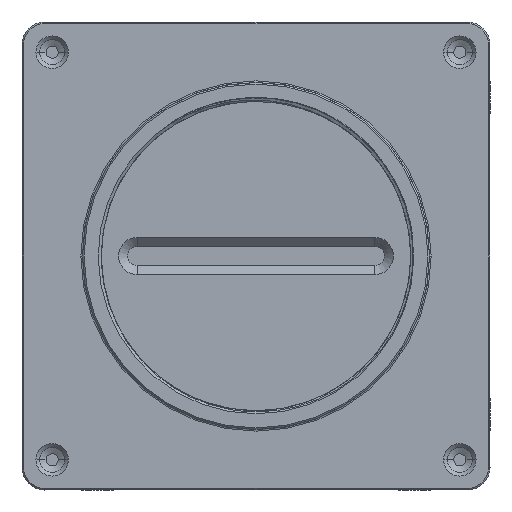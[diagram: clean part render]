
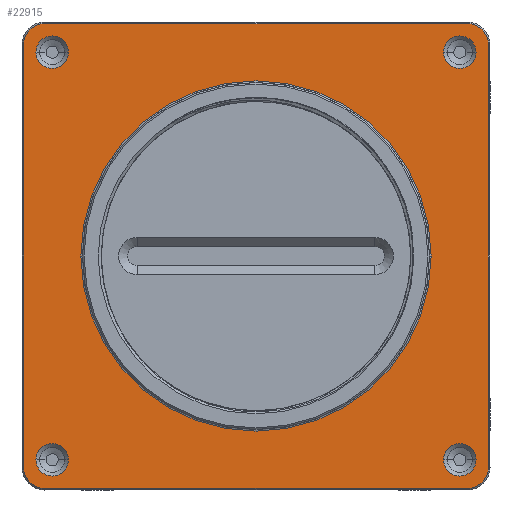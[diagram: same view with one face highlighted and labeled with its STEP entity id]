
A CAD part, front view. The second image highlights one B-rep face of the part: STEP entity #22915.
In plain terms, the highlighted planar face has unit normal (0, -1, 0).
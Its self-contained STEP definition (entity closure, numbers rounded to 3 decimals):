
#2087=DIRECTION('',(1.,0.,0.));
#2088=VECTOR('',#2087,56.);
#2089=CARTESIAN_POINT('',(-28.,-35.,
-30.8));
#2090=LINE('',#2089,#2088);
#2108=DIRECTION('',(0.,0.,-1.));
#2109=VECTOR('',#2108,56.);
#2110=CARTESIAN_POINT('',(-30.8,-35.,
28.));
#2111=LINE('',#2110,#2109);
#2143=DIRECTION('',(-1.,0.,0.));
#2144=VECTOR('',#2143,56.);
#2145=CARTESIAN_POINT('',(28.,-35.,30.8));
#2146=LINE('',#2145,#2144);
#2171=DIRECTION('',(0.,0.,1.));
#2172=VECTOR('',#2171,56.);
#2173=CARTESIAN_POINT('',(30.8,-35.,
-28.));
#2174=LINE('',#2173,#2172);
#2178=CARTESIAN_POINT('',(-28.,-35.,-28.));
#2179=DIRECTION('',(0.,1.,0.));
#2180=DIRECTION('',(0.,0.,-1.));
#2181=AXIS2_PLACEMENT_3D('',#2178,#2179,#2180);
#2186=CARTESIAN_POINT('',(-28.,-35.,28.));
#2187=DIRECTION('',(0.,1.,0.));
#2188=DIRECTION('',(-1.,0.,0.));
#2189=AXIS2_PLACEMENT_3D('',#2186,#2187,#2188);
#2194=CARTESIAN_POINT('',(28.,-35.,28.));
#2195=DIRECTION('',(0.,1.,0.));
#2196=DIRECTION('',(0.,0.,1.));
#2197=AXIS2_PLACEMENT_3D('',#2194,#2195,#2196);
#2202=CARTESIAN_POINT('',(28.,-35.,-28.));
#2203=DIRECTION('',(0.,1.,0.));
#2204=DIRECTION('',(1.,0.,0.));
#2205=AXIS2_PLACEMENT_3D('',#2202,#2203,#2204);
#2210=CARTESIAN_POINT('',(-27.,-35.,-27.));
#2211=DIRECTION('',(0.,-1.,0.));
#2212=DIRECTION('',(1.,0.,0.));
#2213=AXIS2_PLACEMENT_3D('',#2210,#2211,#2212);
#2218=CARTESIAN_POINT('',(27.,-35.,-27.));
#2219=DIRECTION('',(0.,-1.,0.));
#2220=DIRECTION('',(1.,0.,0.));
#2221=AXIS2_PLACEMENT_3D('',#2218,#2219,#2220);
#2226=CARTESIAN_POINT('',(27.,-35.,27.));
#2227=DIRECTION('',(0.,-1.,0.));
#2228=DIRECTION('',(1.,0.,0.));
#2229=AXIS2_PLACEMENT_3D('',#2226,#2227,#2228);
#2234=CARTESIAN_POINT('',(-27.,-35.,27.));
#2235=DIRECTION('',(0.,-1.,0.));
#2236=DIRECTION('',(1.,0.,0.));
#2237=AXIS2_PLACEMENT_3D('',#2234,#2235,#2236);
#2242=CARTESIAN_POINT('',(0.,-35.,0.));
#2243=DIRECTION('',(0.,-1.,0.));
#2244=DIRECTION('',(-1.,0.,0.));
#2245=AXIS2_PLACEMENT_3D('',#2242,#2243,#2244);
#2250=CARTESIAN_POINT('',(0.,-35.,0.));
#2251=DIRECTION('',(0.,-1.,0.));
#2252=DIRECTION('',(1.,0.,0.));
#2253=AXIS2_PLACEMENT_3D('',#2250,#2251,#2252);
#2258=CARTESIAN_POINT('',(-27.,-35.,-27.));
#2259=DIRECTION('',(0.,1.,0.));
#2260=DIRECTION('',(1.,0.,0.));
#2261=AXIS2_PLACEMENT_3D('',#2258,#2259,#2260);
#2356=CARTESIAN_POINT('',(27.,-35.,-27.));
#2357=DIRECTION('',(0.,1.,0.));
#2358=DIRECTION('',(1.,0.,0.));
#2359=AXIS2_PLACEMENT_3D('',#2356,#2357,#2358);
#2454=CARTESIAN_POINT('',(27.,-35.,27.));
#2455=DIRECTION('',(0.,1.,0.));
#2456=DIRECTION('',(1.,0.,0.));
#2457=AXIS2_PLACEMENT_3D('',#2454,#2455,#2456);
#2552=CARTESIAN_POINT('',(-27.,-35.,27.));
#2553=DIRECTION('',(0.,1.,0.));
#2554=DIRECTION('',(1.,0.,0.));
#2555=AXIS2_PLACEMENT_3D('',#2552,#2553,#2554);
#20769=CARTESIAN_POINT('',(-23.197,-35.,0.));
#20770=VERTEX_POINT('',#20769);
#20771=CARTESIAN_POINT('',(-24.85,-35.,27.));
#20772=CARTESIAN_POINT('',(-29.15,-35.,27.));
#20773=VERTEX_POINT('',#20771);
#20774=VERTEX_POINT('',#20772);
#20775=CARTESIAN_POINT('',(-24.85,-35.,-27.));
#20776=CARTESIAN_POINT('',(-29.15,-35.,-27.));
#20777=VERTEX_POINT('',#20775);
#20778=VERTEX_POINT('',#20776);
#20779=CARTESIAN_POINT('',(29.15,-35.,-27.));
#20780=CARTESIAN_POINT('',(24.85,-35.,-27.));
#20781=VERTEX_POINT('',#20779);
#20782=VERTEX_POINT('',#20780);
#20783=CARTESIAN_POINT('',(29.15,-35.,27.));
#20784=CARTESIAN_POINT('',(24.85,-35.,27.));
#20785=VERTEX_POINT('',#20783);
#20786=VERTEX_POINT('',#20784);
#20787=CARTESIAN_POINT('',(-28.,-35.,-30.8));
#20788=CARTESIAN_POINT('',(-30.8,-35.,-28.));
#20789=VERTEX_POINT('',#20787);
#20790=VERTEX_POINT('',#20788);
#20791=CARTESIAN_POINT('',(-30.8,-35.,
28.));
#20792=VERTEX_POINT('',#20791);
#20793=CARTESIAN_POINT('',(-28.,-35.,30.8));
#20794=VERTEX_POINT('',#20793);
#20795=CARTESIAN_POINT('',(28.,-35.,
30.8));
#20796=VERTEX_POINT('',#20795);
#20797=CARTESIAN_POINT('',(30.8,-35.,28.));
#20798=VERTEX_POINT('',#20797);
#20799=CARTESIAN_POINT('',(30.8,-35.,
-28.));
#20800=VERTEX_POINT('',#20799);
#20801=CARTESIAN_POINT('',(28.,-35.,-30.8));
#20802=VERTEX_POINT('',#20801);
#20803=CARTESIAN_POINT('',(23.197,-35.,0.));
#20804=VERTEX_POINT('',#20803);
#22870=CARTESIAN_POINT('',(0.,-35.,0.));
#22871=DIRECTION('',(0.,1.,0.));
#22872=DIRECTION('',(0.,0.,-1.));
#22873=AXIS2_PLACEMENT_3D('',#22870,#22871,#22872);
#22874=PLANE('',#22873);
#22875=ORIENTED_EDGE('',*,*,#22753,.T.);
#22876=ORIENTED_EDGE('',*,*,#22774,.F.);
#22877=ORIENTED_EDGE('',*,*,#22795,.T.);
#22878=ORIENTED_EDGE('',*,*,#22816,.F.);
#22879=ORIENTED_EDGE('',*,*,#22837,.T.);
#22880=ORIENTED_EDGE('',*,*,#22857,.F.);
#22881=ORIENTED_EDGE('',*,*,#22710,.T.);
#22882=ORIENTED_EDGE('',*,*,#22732,.F.);
#22883=EDGE_LOOP('',(#22875,#22876,#22877,#22878,#22879,#22880,#22881,#22882));
#22884=FACE_OUTER_BOUND('',#22883,.F.);
#22886=ORIENTED_EDGE('',*,*,#22885,.F.);
#22888=ORIENTED_EDGE('',*,*,#22887,.T.);
#22889=EDGE_LOOP('',(#22886,#22888));
#22890=FACE_BOUND('',#22889,.F.);
#22892=ORIENTED_EDGE('',*,*,#22891,.F.);
#22894=ORIENTED_EDGE('',*,*,#22893,.T.);
#22895=EDGE_LOOP('',(#22892,#22894));
#22896=FACE_BOUND('',#22895,.F.);
#22898=ORIENTED_EDGE('',*,*,#22897,.F.);
#22900=ORIENTED_EDGE('',*,*,#22899,.T.);
#22901=EDGE_LOOP('',(#22898,#22900));
#22902=FACE_BOUND('',#22901,.F.);
#22904=ORIENTED_EDGE('',*,*,#22903,.T.);
#22906=ORIENTED_EDGE('',*,*,#22905,.F.);
#22907=EDGE_LOOP('',(#22904,#22906));
#22908=FACE_BOUND('',#22907,.F.);
#22910=ORIENTED_EDGE('',*,*,#22909,.T.);
#22912=ORIENTED_EDGE('',*,*,#22911,.T.);
#22913=EDGE_LOOP('',(#22910,#22912));
#22914=FACE_BOUND('',#22913,.F.);
#22915=ADVANCED_FACE('',(#22884,#22890,#22896,#22902,#22908,#22914),#22874,.F.);
#2182=CIRCLE('',#2181,2.8);
#2190=CIRCLE('',#2189,2.8);
#2198=CIRCLE('',#2197,2.8);
#2206=CIRCLE('',#2205,2.8);
#2214=CIRCLE('',#2213,2.15);
#2222=CIRCLE('',#2221,2.15);
#2230=CIRCLE('',#2229,2.15);
#2238=CIRCLE('',#2237,2.15);
#2246=CIRCLE('',#2245,23.197);
#2254=CIRCLE('',#2253,23.197);
#2262=CIRCLE('',#2261,2.15);
#2360=CIRCLE('',#2359,2.15);
#2458=CIRCLE('',#2457,2.15);
#2556=CIRCLE('',#2555,2.15);
#22710=EDGE_CURVE('',#20800,#20802,#2206,.T.);
#22732=EDGE_CURVE('',#20789,#20802,#2090,.T.);
#22753=EDGE_CURVE('',#20789,#20790,#2182,.T.);
#22774=EDGE_CURVE('',#20792,#20790,#2111,.T.);
#22795=EDGE_CURVE('',#20792,#20794,#2190,.T.);
#22816=EDGE_CURVE('',#20796,#20794,#2146,.T.);
#22837=EDGE_CURVE('',#20796,#20798,#2198,.T.);
#22857=EDGE_CURVE('',#20800,#20798,#2174,.T.);
#22885=EDGE_CURVE('',#20777,#20778,#2262,.T.);
#22887=EDGE_CURVE('',#20777,#20778,#2214,.T.);
#22891=EDGE_CURVE('',#20781,#20782,#2360,.T.);
#22893=EDGE_CURVE('',#20781,#20782,#2222,.T.);
#22897=EDGE_CURVE('',#20785,#20786,#2458,.T.);
#22899=EDGE_CURVE('',#20785,#20786,#2230,.T.);
#22903=EDGE_CURVE('',#20773,#20774,#2238,.T.);
#22905=EDGE_CURVE('',#20773,#20774,#2556,.T.);
#22909=EDGE_CURVE('',#20770,#20804,#2246,.T.);
#22911=EDGE_CURVE('',#20804,#20770,#2254,.T.);
